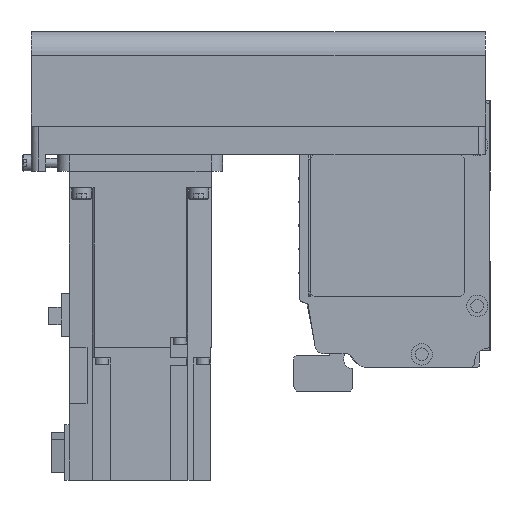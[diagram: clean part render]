
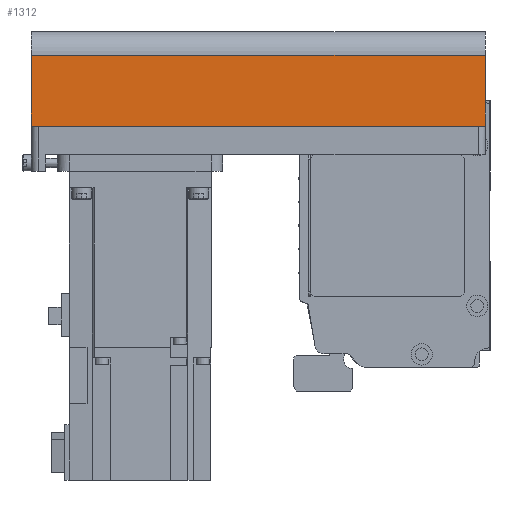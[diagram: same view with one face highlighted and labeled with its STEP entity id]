
A CAD part, left-side view. The second image highlights one B-rep face of the part: STEP entity #1312.
In plain terms, the highlighted planar face has unit normal (-1, 0, 0) as drawn and (0, 1, 0) by its records, which use the part's own axes.
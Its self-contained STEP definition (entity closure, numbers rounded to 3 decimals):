
#1312 = ADVANCED_FACE( '', ( #3096 ), #3097, .T. );
#3096 = FACE_OUTER_BOUND( '', #5488, .T. );
#3097 = PLANE( '', #5489 );
#5488 = EDGE_LOOP( '', ( #9039, #9040, #9041, #9042 ) );
#5489 = AXIS2_PLACEMENT_3D( '', #9043, #9044, #9045 );
#9039 = ORIENTED_EDGE( '', *, *, #14644, .F. );
#9040 = ORIENTED_EDGE( '', *, *, #14645, .F. );
#9041 = ORIENTED_EDGE( '', *, *, #14475, .T. );
#9042 = ORIENTED_EDGE( '', *, *, #14646, .T. );
#9043 = CARTESIAN_POINT( '', ( -192., 40., -42. ) );
#9044 = DIRECTION( '', ( 0., 1., 0. ) );
#9045 = DIRECTION( '', ( 0., 0., 1. ) );
#14475 = EDGE_CURVE( '', #17601, #17087, #17602, .T. );
#14644 = EDGE_CURVE( '', #17869, #17870, #17871, .T. );
#14645 = EDGE_CURVE( '', #17601, #17869, #17872, .T. );
#14646 = EDGE_CURVE( '', #17087, #17870, #17873, .T. );
#17087 = VERTEX_POINT( '', #21123 );
#17601 = VERTEX_POINT( '', #21812 );
#17602 = LINE( '', #21813, #21814 );
#17869 = VERTEX_POINT( '', #22172 );
#17870 = VERTEX_POINT( '', #22173 );
#17871 = LINE( '', #22174, #22175 );
#17872 = LINE( '', #22176, #22177 );
#17873 = LINE( '', #22178, #22179 );
#21123 = CARTESIAN_POINT( '', ( -192., 40., -12.1 ) );
#21812 = CARTESIAN_POINT( '', ( -192., 40., -42. ) );
#21813 = CARTESIAN_POINT( '', ( -192., 40., -42. ) );
#21814 = VECTOR( '', #25728, 1000. );
#22172 = CARTESIAN_POINT( '', ( 0., 40., -42. ) );
#22173 = CARTESIAN_POINT( '', ( 0., 40., -12.1 ) );
#22174 = CARTESIAN_POINT( '', ( 0., 40., -42. ) );
#22175 = VECTOR( '', #25928, 1000. );
#22176 = CARTESIAN_POINT( '', ( -192., 40., -42. ) );
#22177 = VECTOR( '', #25929, 1000. );
#22178 = CARTESIAN_POINT( '', ( -192., 40., -12.1 ) );
#22179 = VECTOR( '', #25930, 1000. );
#25728 = DIRECTION( '', ( 0., 0., 1. ) );
#25928 = DIRECTION( '', ( 0., 0., 1. ) );
#25929 = DIRECTION( '', ( 1., 0., 0. ) );
#25930 = DIRECTION( '', ( 1., 0., 0. ) );
